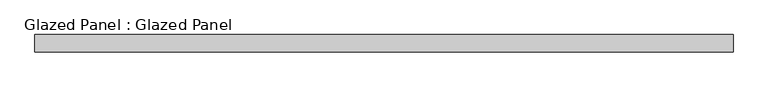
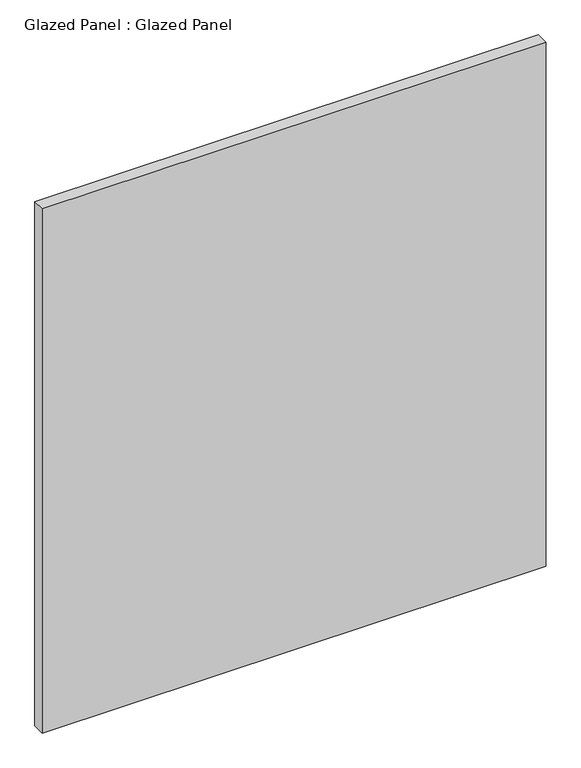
"""IFC4 building model written with IfcOpenShell, lengths in millimetres: plate geometry, Glazed Panel : Glazed Panel."""

from ifc_helpers import new_model, si_unit, origin, origin_with_axes, place, context, project, spatial, polyline, outline, extrude, source, transform, mapped, element, save


def glazed_panel_glazed_panel_8a3da2d9(model_context):
    return source(origin(), model_context, "Body", "SweptSolid", [
        extrude(outline(polyline([(511.175, 38.1), (-511.175, 38.1), (-511.175, 63.5), (511.175, 63.5), (511.175, 38.1)])), origin_with_axes(), (0.0, 0.0, 1.0), 1123.95),
    ])


if __name__ == "__main__":
    model = new_model("IFC4")
    model_context = context("Model", 3, world=origin())
    ifc_project = project(units=[si_unit("LENGTHUNIT", "METRE", prefix="MILLI")], contexts=[model_context])
    site = spatial("IfcSite", under=ifc_project)
    building = spatial("IfcBuilding", under=site)
    placement = place(None, origin())
    glazed_panel_glazed_panel_shape = glazed_panel_glazed_panel_8a3da2d9(model_context)
    element("IfcPlate", 1, ObjectType="Glazed Panel : Glazed Panel", at=placement, inside=building, context=model_context, shape_type="MappedRepresentation", body=[
        mapped(glazed_panel_glazed_panel_shape, transform((0.0, 0.0, 0.0), x_axis=(1.0, 0.0, 0.0), y_axis=(0.0, 1.0, 0.0), z_axis=(0.0, 0.0, 1.0))),
    ])
    save(model, "model.ifc")
